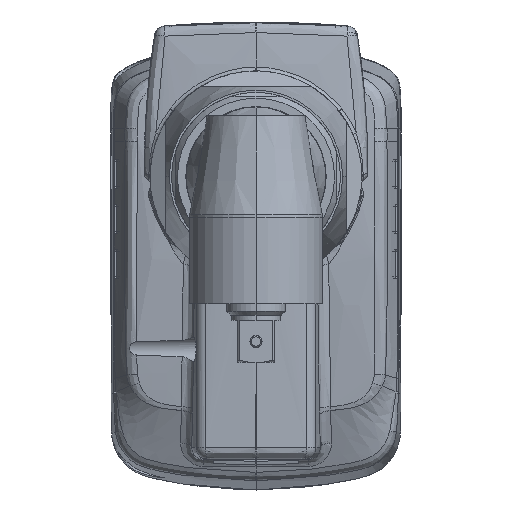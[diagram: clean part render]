
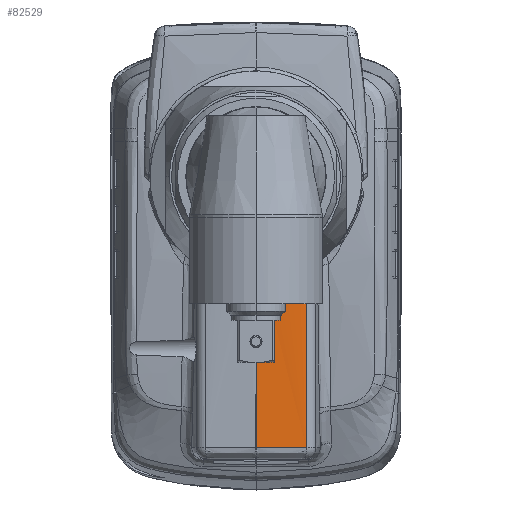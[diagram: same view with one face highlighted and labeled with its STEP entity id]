
A CAD part, front view. The second image highlights one B-rep face of the part: STEP entity #82529.
In plain terms, the highlighted free-form (B-spline) face has degree [3, 1] with [4, 2] control points.
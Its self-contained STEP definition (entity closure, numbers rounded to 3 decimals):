
#732 = CARTESIAN_POINT ( 'NONE',  ( 3.083, 284.252, -25.099 ) ) ;
#968 = CARTESIAN_POINT ( 'NONE',  ( 11.477, 284.755, -20.275 ) ) ;
#3063 = B_SPLINE_CURVE_WITH_KNOTS ( 'NONE', 3,
 ( #59617, #40154, #50865, #80967, #732, #91691, #89707, #81640 ),
 .UNSPECIFIED., .F., .F.,
 ( 4, 2, 2, 4 ),
 ( 0., 0.25, 0.5, 1. ),
 .UNSPECIFIED. ) ;
#4840 = DIRECTION ( 'NONE',  ( 0., 0., -1. ) ) ;
#6473 = B_SPLINE_CURVE_WITH_KNOTS ( 'NONE', 3,
 ( #8998, #49803, #123352, #111332, #42385, #92611, #30374, #61850, #90612, #20985, #70569, #21667, #968, #40395, #60524, #110681, #131410, #91935, #11628, #50450, #20321, #91273, #120684, #71888, #29709, #132064, #122677, #80554, #102647, #19007, #31691, #100657, #31030, #51104, #101315, #52427, #10974, #41722 ),
 .UNSPECIFIED., .F., .F.,
 ( 4, 2, 2, 1, 1, 1, 1, 2, 2, 2, 2, 1, 1, 1, 2, 2, 2, 1, 1, 1, 1, 1, 2, 2, 4 ),
 ( 0., 0.125, 0.188, 0.219, 0.234, 0.242, 0.246, 0.248, 0.25, 0.375, 0.437, 0.469, 0.484, 0.492, 0.496, 0.5, 0.625, 0.687, 0.719, 0.734, 0.742, 0.746, 0.748, 0.75, 1. ),
 .UNSPECIFIED. ) ;
#8998 = CARTESIAN_POINT ( 'NONE',  ( 12.836, 284.925, -18.705 ) ) ;
#9261 = VERTEX_POINT ( 'NONE', #51293 ) ;
#10974 = CARTESIAN_POINT ( 'NONE',  ( 6.103, 284.352, -24.129 ) ) ;
#11257 = ORIENTED_EDGE ( 'NONE', *, *, #103388, .T. ) ;
#11628 = CARTESIAN_POINT ( 'NONE',  ( 9.993, 284.609, -21.658 ) ) ;
#14027 = CARTESIAN_POINT ( 'NONE',  ( 0., 284.22, -18.403 ) ) ;
#14681 = CARTESIAN_POINT ( 'NONE',  ( 5.048, 284.22, -18.403 ) ) ;
#15340 = FACE_OUTER_BOUND ( 'NONE', #101933, .T. ) ;
#17313 = EDGE_CURVE ( 'NONE', #46025, #100744, #76253, .T. ) ;
#18663 = CARTESIAN_POINT ( 'NONE',  ( 5.048, 284.22, -69. ) ) ;
#19007 = CARTESIAN_POINT ( 'NONE',  ( 7.894, 284.452, -23.16 ) ) ;
#20321 = CARTESIAN_POINT ( 'NONE',  ( 9.805, 284.592, -21.813 ) ) ;
#20985 = CARTESIAN_POINT ( 'NONE',  ( 11.497, 284.757, -20.255 ) ) ;
#21667 = CARTESIAN_POINT ( 'NONE',  ( 11.479, 284.755, -20.273 ) ) ;
#29709 = CARTESIAN_POINT ( 'NONE',  ( 9.413, 284.559, -22.127 ) ) ;
#30374 = CARTESIAN_POINT ( 'NONE',  ( 11.668, 284.777, -20.075 ) ) ;
#31030 = CARTESIAN_POINT ( 'NONE',  ( 7.769, 284.444, -23.236 ) ) ;
#31691 = CARTESIAN_POINT ( 'NONE',  ( 7.821, 284.447, -23.204 ) ) ;
#33368 = VECTOR ( 'NONE', #4840, 1000. ) ;
#34758 = CARTESIAN_POINT ( 'NONE',  ( 12.836, 284.925, -69. ) ) ;
#39400 = CARTESIAN_POINT ( 'NONE',  ( 12.836, 284.925, -69. ) ) ;
#40154 = CARTESIAN_POINT ( 'NONE',  ( 4.838, 284.303, -24.609 ) ) ;
#40395 = CARTESIAN_POINT ( 'NONE',  ( 11.186, 284.723, -20.577 ) ) ;
#41722 = CARTESIAN_POINT ( 'NONE',  ( 5.27, 284.319, -24.445 ) ) ;
#42385 = CARTESIAN_POINT ( 'NONE',  ( 11.922, 284.806, -19.799 ) ) ;
#45517 =( BOUNDED_CURVE ( )  B_SPLINE_CURVE ( 3, ( #99659, #18663, #131069, #39400 ),
 .UNSPECIFIED., .F., .T. ) 
 B_SPLINE_CURVE_WITH_KNOTS ( ( 4, 4 ),
 ( 0., 1. ),
 .UNSPECIFIED. ) 
 CURVE ( )  GEOMETRIC_REPRESENTATION_ITEM ( )  RATIONAL_B_SPLINE_CURVE ( ( 1., 0.937, 0.937, 1. ) ) 
 REPRESENTATION_ITEM ( '' )  );
#46025 = VERTEX_POINT ( 'NONE', #125617 ) ;
#47090 = VERTEX_POINT ( 'NONE', #67756 ) ;
#49502 = CARTESIAN_POINT ( 'NONE',  ( 12.836, 284.925, -18.705 ) ) ;
#49803 = CARTESIAN_POINT ( 'NONE',  ( 12.608, 284.893, -18.999 ) ) ;
#50450 = CARTESIAN_POINT ( 'NONE',  ( 9.867, 284.598, -21.761 ) ) ;
#50865 = CARTESIAN_POINT ( 'NONE',  ( 4.402, 284.288, -24.753 ) ) ;
#51104 = CARTESIAN_POINT ( 'NONE',  ( 7.758, 284.444, -23.242 ) ) ;
#51293 = CARTESIAN_POINT ( 'NONE',  ( 12.836, 284.925, -69. ) ) ;
#52427 = CARTESIAN_POINT ( 'NONE',  ( 6.936, 284.393, -23.73 ) ) ;
#59617 = CARTESIAN_POINT ( 'NONE',  ( 5.27, 284.319, -24.445 ) ) ;
#60524 = CARTESIAN_POINT ( 'NONE',  ( 10.897, 284.693, -20.858 ) ) ;
#61850 = CARTESIAN_POINT ( 'NONE',  ( 11.57, 284.765, -20.178 ) ) ;
#64925 = CARTESIAN_POINT ( 'NONE',  ( 5.048, 284.22, -69. ) ) ;
#65842 = CARTESIAN_POINT ( 'NONE',  ( 0., 284.22, -25.421 ) ) ;
#66904 = CARTESIAN_POINT ( 'NONE',  ( 9.616, 284.471, -18.403 ) ) ;
#67756 = CARTESIAN_POINT ( 'NONE',  ( 5.27, 284.319, -24.445 ) ) ;
#69908 =( BOUNDED_SURFACE ( )  B_SPLINE_SURFACE ( 3, 1, ( 
 ( #14027, #96334 ),
 ( #14681, #64925 ),
 ( #66904, #87584 ),
 ( #76261, #34758 ) ),
 .UNSPECIFIED., .F., .F., .F. ) 
 B_SPLINE_SURFACE_WITH_KNOTS ( ( 4, 4 ),
 ( 2, 2 ),
 ( 0., 1. ),
 ( 0., 1. ),
 .UNSPECIFIED. ) 
 GEOMETRIC_REPRESENTATION_ITEM ( )  RATIONAL_B_SPLINE_SURFACE ( (
 ( 1., 1.),
 ( 0.937, 0.937),
 ( 0.937, 0.937),
 ( 1., 1.) ) ) 
 REPRESENTATION_ITEM ( '' )  SURFACE ( )  );
#70569 = CARTESIAN_POINT ( 'NONE',  ( 11.486, 284.756, -20.266 ) ) ;
#71888 = CARTESIAN_POINT ( 'NONE',  ( 9.752, 284.588, -21.855 ) ) ;
#76253 = B_SPLINE_CURVE_WITH_KNOTS ( 'NONE', 1,
 ( #93279, #65842 ),
 .UNSPECIFIED., .F., .F.,
 ( 2, 2 ),
 ( 0., 1. ),
 .UNSPECIFIED. ) ;
#76261 = CARTESIAN_POINT ( 'NONE',  ( 12.836, 284.925, -18.403 ) ) ;
#78457 = EDGE_CURVE ( 'NONE', #98456, #47090, #6473, .T. ) ;
#80455 = ORIENTED_EDGE ( 'NONE', *, *, #108712, .F. ) ;
#80554 = CARTESIAN_POINT ( 'NONE',  ( 8.332, 284.48, -22.887 ) ) ;
#80967 = CARTESIAN_POINT ( 'NONE',  ( 3.525, 284.263, -24.997 ) ) ;
#81640 = CARTESIAN_POINT ( 'NONE',  ( 0., 284.22, -25.421 ) ) ;
#82529 = ADVANCED_FACE ( 'NONE', ( #15340 ), #69908, .F. ) ;
#86425 = LINE ( 'NONE', #129851, #33368 ) ;
#87172 = ORIENTED_EDGE ( 'NONE', *, *, #117693, .T. ) ;
#87584 = CARTESIAN_POINT ( 'NONE',  ( 9.616, 284.471, -69. ) ) ;
#89707 = CARTESIAN_POINT ( 'NONE',  ( 0.882, 284.22, -25.421 ) ) ;
#90612 = CARTESIAN_POINT ( 'NONE',  ( 11.521, 284.76, -20.229 ) ) ;
#91273 = CARTESIAN_POINT ( 'NONE',  ( 9.778, 284.59, -21.834 ) ) ;
#91691 = CARTESIAN_POINT ( 'NONE',  ( 1.77, 284.228, -25.34 ) ) ;
#91935 = CARTESIAN_POINT ( 'NONE',  ( 10.101, 284.618, -21.567 ) ) ;
#92611 = CARTESIAN_POINT ( 'NONE',  ( 11.752, 284.786, -19.984 ) ) ;
#93279 = CARTESIAN_POINT ( 'NONE',  ( 0., 284.22, -69. ) ) ;
#96334 = CARTESIAN_POINT ( 'NONE',  ( 0., 284.22, -69. ) ) ;
#98456 = VERTEX_POINT ( 'NONE', #49502 ) ;
#99659 = CARTESIAN_POINT ( 'NONE',  ( 0., 284.22, -69. ) ) ;
#100657 = CARTESIAN_POINT ( 'NONE',  ( 7.784, 284.445, -23.226 ) ) ;
#100744 = VERTEX_POINT ( 'NONE', #111480 ) ;
#101315 = CARTESIAN_POINT ( 'NONE',  ( 7.754, 284.443, -23.244 ) ) ;
#101933 = EDGE_LOOP ( 'NONE', ( #109354, #11257, #80455, #106742, #87172 ) ) ;
#102647 = CARTESIAN_POINT ( 'NONE',  ( 8.04, 284.461, -23.071 ) ) ;
#103388 = EDGE_CURVE ( 'NONE', #46025, #9261, #45517, .T. ) ;
#106742 = ORIENTED_EDGE ( 'NONE', *, *, #78457, .T. ) ;
#108712 = EDGE_CURVE ( 'NONE', #98456, #9261, #86425, .T. ) ;
#109354 = ORIENTED_EDGE ( 'NONE', *, *, #17313, .F. ) ;
#110681 = CARTESIAN_POINT ( 'NONE',  ( 10.463, 284.651, -21.254 ) ) ;
#111332 = CARTESIAN_POINT ( 'NONE',  ( 12.035, 284.82, -19.672 ) ) ;
#111480 = CARTESIAN_POINT ( 'NONE',  ( 0., 284.22, -25.421 ) ) ;
#117693 = EDGE_CURVE ( 'NONE', #47090, #100744, #3063, .T. ) ;
#120684 = CARTESIAN_POINT ( 'NONE',  ( 9.76, 284.589, -21.849 ) ) ;
#122677 = CARTESIAN_POINT ( 'NONE',  ( 8.582, 284.498, -22.72 ) ) ;
#123352 = CARTESIAN_POINT ( 'NONE',  ( 12.378, 284.863, -19.278 ) ) ;
#125617 = CARTESIAN_POINT ( 'NONE',  ( 0., 284.22, -69. ) ) ;
#129851 = CARTESIAN_POINT ( 'NONE',  ( 12.836, 284.925, -18.705 ) ) ;
#131069 = CARTESIAN_POINT ( 'NONE',  ( 9.616, 284.471, -69. ) ) ;
#131410 = CARTESIAN_POINT ( 'NONE',  ( 10.318, 284.638, -21.381 ) ) ;
#132064 = CARTESIAN_POINT ( 'NONE',  ( 9.082, 284.534, -22.374 ) ) ;
